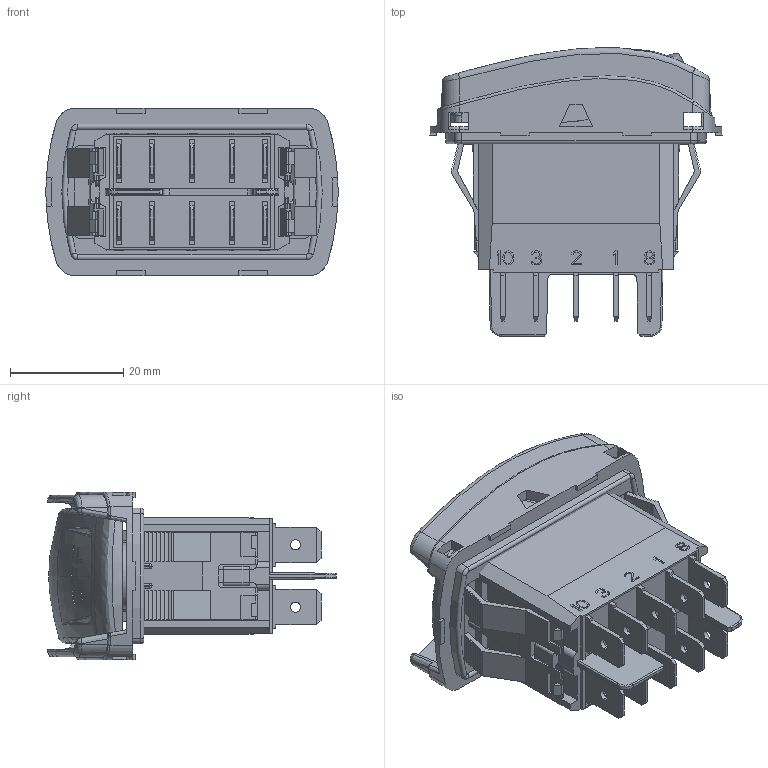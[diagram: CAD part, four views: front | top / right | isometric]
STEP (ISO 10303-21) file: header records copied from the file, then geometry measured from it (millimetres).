
FILE_DESCRIPTION((''),'2;1');
FILE_NAME('KH246FAZDEG22N01XX02_SW0001','2019-04-10T',('vdelort'),(''),'CREO PARAMETRIC BY PTC INC, 2015380','CREO PARAMETRIC BY PTC INC, 2015380','');
FILE_SCHEMA(('CONFIG_CONTROL_DESIGN'));
Products named in the file (1): KH246FAZDEG22N01XX02_SW0001
Bounding box: 51.58 x 50.98 x 29.6 mm (x, y, z)
Surface area: 27120.6 mm2 (no closed solid volume)
Topology: 0 solids, 25 shells, 1812 faces, 6017 edges, 4168 vertices
Faces by surface type: plane 1278, cylinder 322, bspline 134, cone 30, torus 28, extrusion 16, sphere 4
Entity records: 76439 total; most frequent: CARTESIAN_POINT 25628, ORIENTED_EDGE 10934, DIRECTION 9308, EDGE_CURVE 6013, VECTOR 4526, LINE 4510, VERTEX_POINT 4168, AXIS2_PLACEMENT_3D 2391
